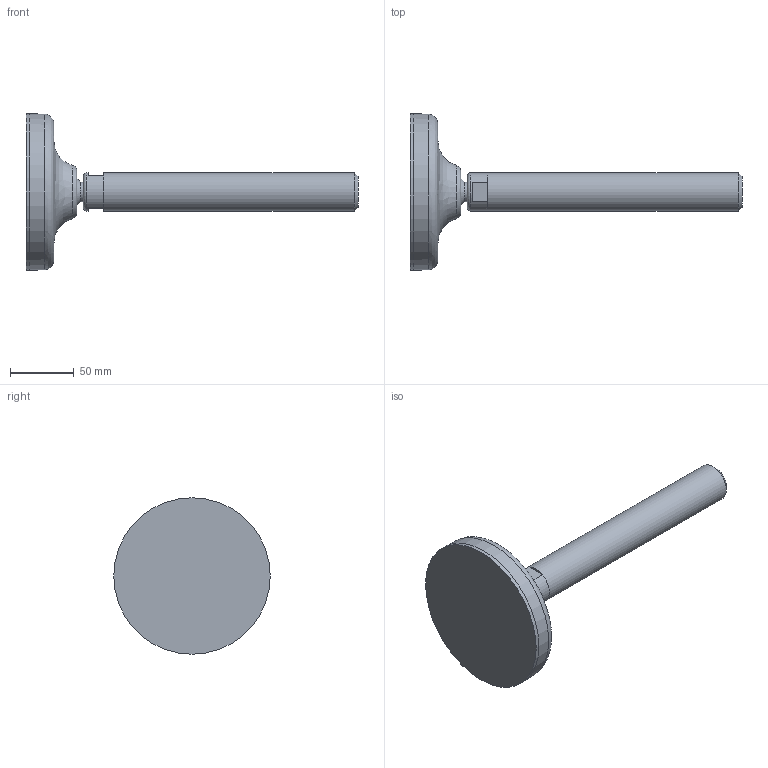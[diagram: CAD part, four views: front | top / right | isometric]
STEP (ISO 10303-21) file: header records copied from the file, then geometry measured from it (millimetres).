
FILE_DESCRIPTION(('STEP AP203'),'2;1');
FILE_NAME('10435.stp','2014-07-21T10:45:22',(''),(''),'2008.1.107','THINKDESIGN','');
FILE_SCHEMA(('CONFIG_CONTROL_DESIGN'));
Length unit declared in the file: millimetre
Bounding box: 261.03 x 123 x 123 mm (x, y, z)
Volume: 443296.1 mm3; surface area: 79569.5 mm2
Topology: 5 solids, 5 shells, 26 faces, 56 edges, 41 vertices
Faces by surface type: plane 15, bspline 7, cylinder 4
Full cylindrical faces by diameter (mm): 15.5 x1, 30 x2, 123 x1
Entity records: 1331 total; most frequent: CARTESIAN_POINT 645, DIRECTION 136, ORIENTED_EDGE 112, AXIS2_PLACEMENT_3D 61, EDGE_CURVE 56, CIRCLE 42, VERTEX_POINT 41, EDGE_LOOP 27
